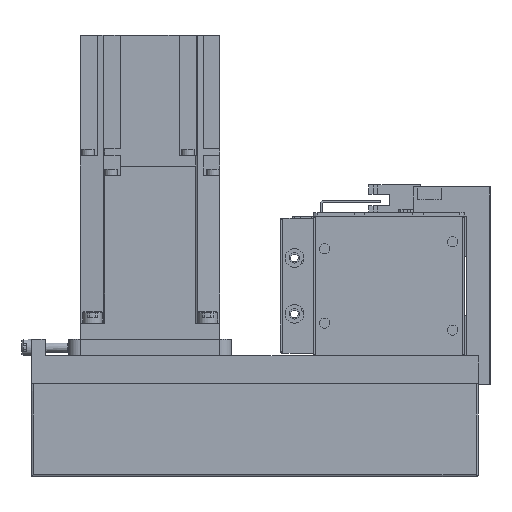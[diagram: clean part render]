
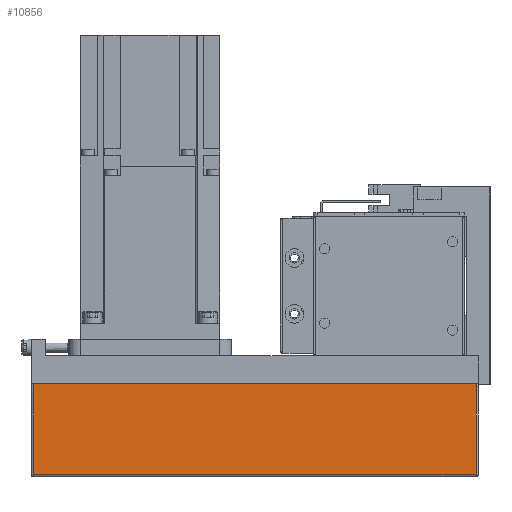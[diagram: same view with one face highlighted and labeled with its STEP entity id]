
A CAD part, left-side view. The second image highlights one B-rep face of the part: STEP entity #10856.
In plain terms, the highlighted planar face has unit normal (-1, 0, 0).
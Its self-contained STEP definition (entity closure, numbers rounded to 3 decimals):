
#2538=ORIENTED_EDGE('',*,*,#4607,.T.);
#2539=ORIENTED_EDGE('',*,*,#4608,.T.);
#2540=ORIENTED_EDGE('',*,*,#4609,.F.);
#2541=ORIENTED_EDGE('',*,*,#4610,.T.);
#4607=EDGE_CURVE('',#5830,#5831,#6870,.T.);
#4608=EDGE_CURVE('',#5831,#5832,#6871,.T.);
#4609=EDGE_CURVE('',#5833,#5832,#6872,.T.);
#4610=EDGE_CURVE('',#5833,#5830,#6873,.T.);
#5830=VERTEX_POINT('',#17442);
#5831=VERTEX_POINT('',#17443);
#5832=VERTEX_POINT('',#17445);
#5833=VERTEX_POINT('',#17447);
#6870=LINE('',#17441,#7918);
#6871=LINE('',#17444,#7919);
#6872=LINE('',#17446,#7920);
#6873=LINE('',#17448,#7921);
#7918=VECTOR('',#14248,1000.);
#7919=VECTOR('',#14249,1000.);
#7920=VECTOR('',#14250,1000.);
#7921=VECTOR('',#14251,1000.);
#8904=EDGE_LOOP('',(#2538,#2539,#2540,#2541));
#9778=FACE_BOUND('',#8904,.T.);
#10326=PLANE('',#11843);
#10856=ADVANCED_FACE('',(#9778),#10326,.T.);
#11843=AXIS2_PLACEMENT_3D('',#17440,#14246,#14247);
#14246=DIRECTION('',(-1.,0.,0.));
#14247=DIRECTION('',(0.,0.,1.));
#14248=DIRECTION('',(0.,0.,1.));
#14249=DIRECTION('',(0.,1.,0.));
#14250=DIRECTION('',(0.,0.,1.));
#14251=DIRECTION('',(0.,-1.,0.));
#17440=CARTESIAN_POINT('',(-40.,151.,-52.));
#17441=CARTESIAN_POINT('',(-40.,-40.,-64.));
#17442=CARTESIAN_POINT('',(-40.,-40.,-51.));
#17443=CARTESIAN_POINT('',(-40.,-40.,-12.01));
#17444=CARTESIAN_POINT('',(-40.,151.,-12.01));
#17445=CARTESIAN_POINT('',(-40.,150.,-12.01));
#17446=CARTESIAN_POINT('',(-40.,150.,-64.));
#17447=CARTESIAN_POINT('',(-40.,150.,-51.));
#17448=CARTESIAN_POINT('',(-40.,200.,-51.));
